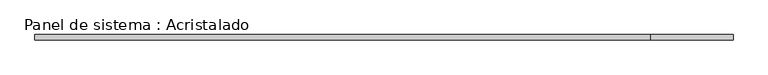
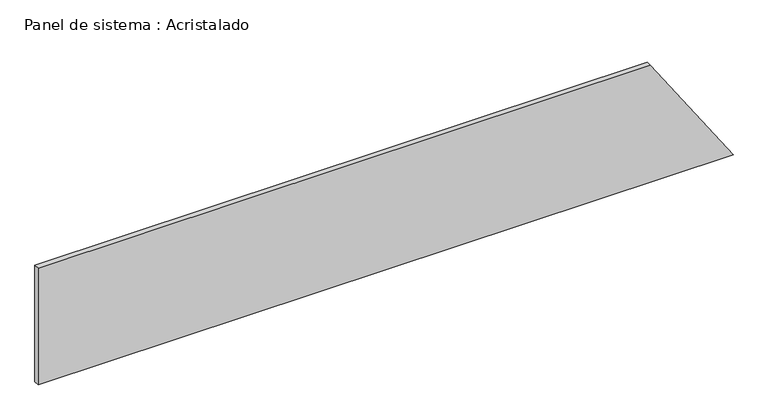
"""IFC4 building model written with IfcOpenShell, lengths in millimetres: plate geometry, Panel de sistema : Acristalado."""

from ifc_helpers import new_model, si_unit, frame, origin, place, context, project, spatial, polyline, outline, extrude, source, transform, mapped, element, save


def panel_de_sistema_acristalado_3d5bf477(model_context):
    return source(origin(), model_context, "Body", "SweptSolid", [
        extrude(outline(polyline([(0.0, -1284.4309132), (0.0, 1284.4309132), (456.0, 979.0737703), (456.0, -1284.4309132), (0.0, -1284.4309132)])), frame((0.0, -10.0, 0.0), z_axis=(0.0, 1.0, 0.0), x_axis=(0.0, 0.0, 1.0)), (0.0, 0.0, 1.0), 20.0),
    ])


if __name__ == "__main__":
    model = new_model("IFC4")
    model_context = context("Model", 3, world=origin())
    ifc_project = project(units=[si_unit("LENGTHUNIT", "METRE", prefix="MILLI")], contexts=[model_context])
    site = spatial("IfcSite", under=ifc_project)
    building = spatial("IfcBuilding", under=site)
    placement = place(None, origin())
    panel_de_sistema_acristalado_shape = panel_de_sistema_acristalado_3d5bf477(model_context)
    element("IfcPlate", 1, ObjectType="Panel de sistema : Acristalado", at=placement, inside=building, context=model_context, shape_type="MappedRepresentation", body=[
        mapped(panel_de_sistema_acristalado_shape, transform((0.0, 0.0, 0.0), x_axis=(1.0, 0.0, 0.0), y_axis=(0.0, 1.0, 0.0), z_axis=(0.0, 0.0, 1.0))),
    ])
    save(model, "model.ifc")
